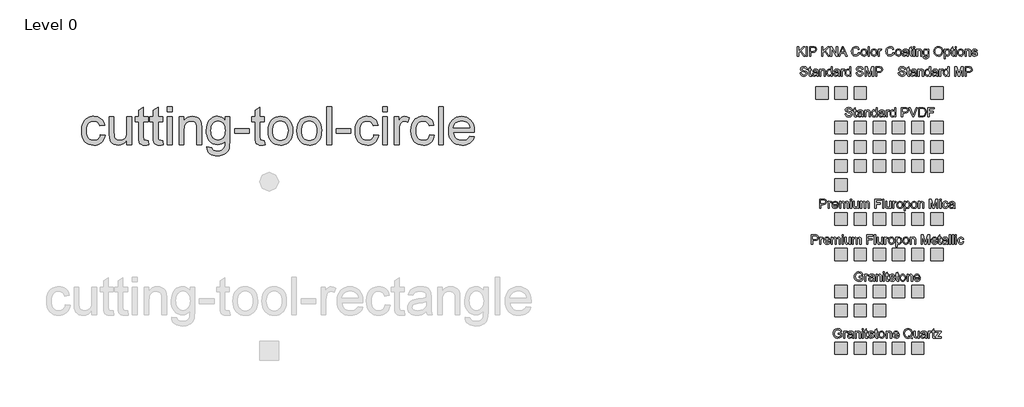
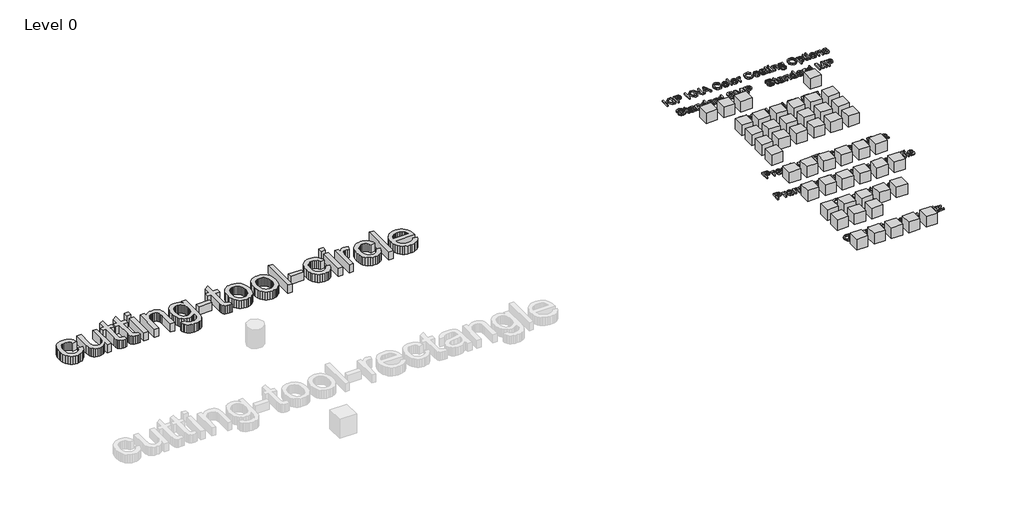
# One storey, part 5 of 5: 50 proxies.
"""IFC4 building model written with IfcOpenShell, lengths in millimetres."""

from ifc_helpers import new_model, si_unit, origin, origin_with_axes, place, context, project, spatial, polyline, outline, extrude, transform, mapped, element, save
from components import ks_color_sample_ks_color_sample_0243efec, r19_kna_color_range_kingspan_quadcore_4278cd54, r19_kna_color_range_kingspan_quadcore_c5814d20, r19_kna_color_range_kingspan_quadcore_91b79b7c

model = new_model("IFC4")

# Units and contexts
model_context = context("Model", 3, world=origin())
ifc_project = project(units=[si_unit("LENGTHUNIT", "METRE", prefix="MILLI")], contexts=[model_context])

# Site, building, storey
site = spatial("IfcSite", under=ifc_project)
building = spatial("IfcBuilding", under=site)
storey = spatial("IfcBuildingStorey", under=building, Name="Level 0", Elevation=0.0)

# Proxies
placement = place(None, origin())
element("IfcBuildingElementProxy", 1, Name="24\" Arial", ObjectType="24\" Arial", at=placement, inside=storey, context=model_context, shape_type="SweptSolid", body=[
    extrude(outline(polyline([(490.0375348, 12966.9224991), (566.1793083, 12957.4047774), (557.8977751, 12921.4763075), (544.9503275, 12889.6839569), (527.3369656, 12862.0277256), (505.0576893, 12838.5076135), (479.0512584, 12819.7370677), (450.2564324, 12806.3295349), (418.6732114, 12798.2850153), (384.3015954, 12795.6035087), (341.5973256, 12799.3446054), (303.3080145, 12810.5678954), (269.4336623, 12829.2733787), (239.9742688, 12855.4610553), (216.128844, 12888.6383088), (199.0963978, 12928.3125227), (188.87693, 12974.483697), (185.4704407, 13027.1518317), (191.2888917, 13094.9098308), (198.5619554, 13125.4009305), (208.7442445, 13153.6334301), (221.9054691, 13179.0403561), (238.1153388, 13201.0547348), (257.3738538, 13219.6765663), (279.681014, 13234.9058505), (304.0283499, 13246.7472347), (329.407392, 13255.2053663), (355.8181402, 13260.2802452), (383.2605946, 13261.9718715), (417.0420003, 13259.648209), (447.5981625, 13252.6772214), (474.9290811, 13241.0589088), (499.0347561, 13224.7932712), (519.5062229, 13204.2520945), (535.9345169, 13179.8071647), (548.3196382, 13151.458482), (556.6615866, 13119.2060462), (480.5198131, 13109.6883245), (466.7079631, 13142.9074039), (445.2001428, 13166.7202974), (417.1860674, 13181.0526479), (383.8554522, 13185.830098), (357.9837937, 13183.4785515), (334.6495746, 13176.4239121), (313.8527951, 13164.6661797), (295.593455, 13148.2053544), (280.7266621, 13126.6603555), (270.1075244, 13099.6501024), (263.7360418, 13067.174595), (261.6122142, 13029.2338333), (263.6895685, 12990.7214507), (269.9216314, 12957.86951), (280.3084029, 12930.6780111), (294.849883, 12909.1469542), (312.7467317, 12892.7837227), (333.1996092, 12881.0957002), (356.2085155, 12874.0828867), (381.7734506, 12871.7452822), (421.2013562, 12877.5823225), (438.2523918, 12884.8786228), (453.5281493, 12895.0934433), (466.6010746, 12908.3383196), (477.043614, 12924.7247877), (484.8557674, 12944.2528476), (490.0375348, 12966.9224991)])), origin_with_axes(), (0.0, 0.0, 1.0), 152.4),
    extrude(outline(polyline([(918.3350108, 12805.1212304), (918.3350108, 12882.0065759), (890.785668, 12844.205234), (858.7005359, 12817.2042755), (822.0796145, 12801.0037004), (780.9229039, 12795.6035087), (743.8372501, 12799.395726), (709.3169197, 12810.7723777), (680.35479, 12827.8745338), (659.9437384, 12848.8432644), (646.2062456, 12874.3106057), (637.2647922, 12904.9085938), (632.8033601, 12975.6966488), (632.8033601, 13252.4541498), (708.9451337, 13252.4541498), (708.9451337, 13011.5368196), (710.0976703, 12963.3533535), (713.5552801, 12933.907902), (724.6530923, 12908.0130069), (743.6699464, 12888.326938), (769.3417699, 12875.8906962), (800.4044905, 12871.7452822), (833.2517839, 12875.9836427), (863.9798971, 12888.698724), (889.3171133, 12908.7194003), (905.9917155, 12934.8745456), (915.249187, 12970.6961271), (918.3350108, 13019.7161116), (918.3350108, 13252.4541498), (994.4767843, 13252.4541498), (994.4767843, 12805.1212304), (918.3350108, 12805.1212304)])), origin_with_axes(), (0.0, 0.0, 1.0), 152.4),
    extrude(outline(polyline([(1260.9729917, 12868.6222798), (1270.4907133, 12802.8905144), (1240.3388685, 12797.4252601), (1213.5330976, 12795.6035087), (1176.9865335, 12798.7636898), (1149.7346194, 12808.2442328), (1130.4761044, 12822.8554228), (1117.9097375, 12841.4075444), (1110.9945178, 12873.2696049), (1108.6894446, 12927.8106116), (1108.6894446, 13176.3123763), (1051.5831145, 13176.3123763), (1051.5831145, 13252.4541498), (1108.6894446, 13252.4541498), (1108.6894446, 13361.1643772), (1184.8312181, 13405.9274121), (1184.8312181, 13252.4541498), (1260.9729917, 13252.4541498), (1260.9729917, 13176.3123763), (1184.8312181, 13176.3123763), (1184.8312181, 12930.0413276), (1188.846507, 12890.7807256), (1201.8590171, 12876.8759291), (1212.8452935, 12873.027944), (1227.8096801, 12871.7452822), (1260.9729917, 12868.6222798)])), origin_with_axes(), (0.0, 0.0, 1.0), 152.4),
    extrude(outline(polyline([(1498.9160339, 12868.6222798), (1508.4337556, 12802.8905144), (1478.2819107, 12797.4252601), (1451.4761398, 12795.6035087), (1414.9295757, 12798.7636898), (1387.6776616, 12808.2442328), (1368.4191467, 12822.8554228), (1355.8527797, 12841.4075444), (1348.9375601, 12873.2696049), (1346.6324869, 12927.8106116), (1346.6324869, 13176.3123763), (1289.5261567, 13176.3123763), (1289.5261567, 13252.4541498), (1346.6324869, 13252.4541498), (1346.6324869, 13361.1643772), (1422.7742604, 13405.9274121), (1422.7742604, 13252.4541498), (1498.9160339, 13252.4541498), (1498.9160339, 13176.3123763), (1422.7742604, 13176.3123763), (1422.7742604, 12930.0413276), (1426.7895492, 12890.7807256), (1439.8020593, 12876.8759291), (1450.7883357, 12873.027944), (1465.7527224, 12871.7452822), (1498.9160339, 12868.6222798)])), origin_with_axes(), (0.0, 0.0, 1.0), 152.4),
    extrude(outline(polyline([(1575.0578074, 13338.113645), (1575.0578074, 13414.2554185), (1651.1995809, 13414.2554185), (1651.1995809, 13338.113645), (1575.0578074, 13338.113645)])), origin_with_axes(), (0.0, 0.0, 1.0), 152.4),
    extrude(outline(polyline([(1575.0578074, 12805.1212304), (1575.0578074, 13252.4541498), (1651.1995809, 13252.4541498), (1651.1995809, 12805.1212304), (1575.0578074, 12805.1212304)])), origin_with_axes(), (0.0, 0.0, 1.0), 152.4),
    extrude(outline(polyline([(1765.4122412, 12805.1212304), (1765.4122412, 13252.4541498), (1841.5540147, 13252.4541498), (1841.5540147, 13189.9941012), (1868.0065889, 13221.4843757), (1899.7757029, 13243.9774289), (1936.8613567, 13257.4732609), (1979.2635504, 13261.9718715), (2016.7953475, 13258.346958), (2051.1669635, 13247.4722174), (2079.8316644, 13230.7046686), (2100.242716, 13209.4013306), (2114.0917446, 13183.6179713), (2123.0703766, 13153.4103585), (2127.0856654, 13079.7967298), (2127.0856654, 12805.1212304), (2050.9438919, 12805.1212304), (2050.9438919, 13069.5354361), (2048.7503545, 13108.9075739), (2042.1697422, 13136.9030599), (2030.0309292, 13156.9609148), (2011.1627895, 13172.5201591), (1986.97811, 13182.5026133), (1958.8896774, 13185.830098), (1935.7692353, 13183.9618733), (1914.2939463, 13178.3571993), (1894.4638103, 13169.016076), (1876.2788275, 13155.9385033), (1861.0867219, 13137.6373373), (1850.2352179, 13112.6254339), (1843.7243155, 13080.9027932), (1841.5540147, 13042.469415), (1841.5540147, 12805.1212304), (1765.4122412, 12805.1212304)])), origin_with_axes(), (0.0, 0.0, 1.0), 152.4),
    extrude(outline(polyline([(2212.7451606, 12767.0503437), (2288.8869341, 12757.532622), (2297.2892978, 12733.7383177), (2313.5735248, 12717.3797336), (2345.5842997, 12704.6646523), (2387.4845823, 12700.4262918), (2432.1732599, 12705.2223313), (2450.2234704, 12711.2173806), (2465.4109286, 12719.6104496), (2488.4616608, 12742.6611818), (2502.5895289, 12773.4450629), (2506.7163536, 12806.1994098), (2507.794533, 12862.2275606), (2482.4573169, 12837.2435411), (2454.1829913, 12819.3978129), (2422.9715563, 12808.690376), (2388.8230119, 12805.1212304), (2347.076091, 12809.275939), (2310.3203972, 12821.7400648), (2278.5559306, 12842.5136077), (2251.782691, 12871.5965678), (2230.5397682, 12906.4886843), (2215.3662519, 12944.6896961), (2206.2621422, 12986.1996034), (2203.2274389, 13031.0184061), (2208.6741039, 13092.4932218), (2225.0140987, 13149.0232837), (2237.1250278, 13174.5138615), (2251.6711552, 13196.9279102), (2268.6524809, 13216.2654297), (2288.0690049, 13232.52642), (2309.6093565, 13245.4088051), (2332.9621649, 13254.6105086), (2358.12743, 13260.1315308), (2385.1051518, 13261.9718715), (2420.7129563, 13257.8078683), (2453.0304547, 13245.3158586), (2482.0576469, 13224.4958424), (2507.794533, 13195.3478197), (2507.794533, 13252.4541498), (2583.9363065, 13252.4541498), (2583.9363065, 12866.2428494), (2578.7313025, 12777.0699764), (2572.2250474, 12743.9020176), (2563.1162903, 12718.3463772), (2551.1866069, 12697.7354906), (2536.217573, 12679.4017933), (2518.2091884, 12663.3452853), (2497.1614533, 12649.5659665), (2473.2881445, 12638.5053329), (2446.8030391, 12630.6048804), (2417.706137, 12625.8646088), (2385.9974383, 12624.2845183), (2348.6933601, 12626.510587), (2315.1536153, 12633.1887931), (2285.3782037, 12644.3191366), (2259.3671255, 12659.9016174), (2238.3565689, 12679.954825), (2223.5827226, 12704.4973486), (2215.0455865, 12733.5291881), (2212.7451606, 12767.0503437)]), holes=[polyline([(2279.3692124, 13036.2234102), (2281.4000935, 12998.57543), (2287.4927366, 12966.3834094), (2297.6471418, 12939.6473485), (2311.8633092, 12918.3672471), (2329.146711, 12902.1341407), (2348.5028198, 12890.5390647), (2369.9316356, 12883.5820191), (2393.4331583, 12881.2630039), (2416.7023148, 12883.5680772), (2438.0288894, 12890.4832968), (2457.4128822, 12902.0086629), (2474.8542931, 12918.1441755), (2489.265648, 12939.2151472), (2499.559473, 12965.5468909), (2505.735768, 12997.1394066), (2507.794533, 13033.9926942), (2505.6753528, 13069.3077172), (2499.3178121, 13100.0032991), (2488.721911, 13126.0794399), (2473.8876495, 13147.5361396), (2456.0698053, 13164.2897464), (2436.5231561, 13176.2566084), (2415.2477021, 13183.4367256), (2392.2434431, 13185.830098), (2369.6249121, 13183.4739042), (2348.76307, 13176.4053228), (2329.6579167, 13164.6243538), (2312.3094524, 13148.1309972), (2297.8980974, 13126.9996103), (2287.6042724, 13101.3045501), (2281.4279774, 13071.0458167), (2279.3692124, 13036.2234102)])]), origin_with_axes(), (0.0, 0.0, 1.0), 152.4),
    extrude(outline(polyline([(2660.07808, 12985.9579425), (2660.07808, 13062.099716), (2898.0211223, 13062.099716), (2898.0211223, 12985.9579425), (2660.07808, 12985.9579425)])), origin_with_axes(), (0.0, 0.0, 1.0), 152.4),
    extrude(outline(polyline([(3145.4818862, 12868.6222798), (3154.9996079, 12802.8905144), (3124.847763, 12797.4252601), (3098.0419922, 12795.6035087), (3061.495428, 12798.7636898), (3034.243514, 12808.2442328), (3014.984999, 12822.8554228), (3002.4186321, 12841.4075444), (2995.5034124, 12873.2696049), (2993.1983392, 12927.8106116), (2993.1983392, 13176.3123763), (2936.092009, 13176.3123763), (2936.092009, 13252.4541498), (2993.1983392, 13252.4541498), (2993.1983392, 13361.1643772), (3069.3401127, 13405.9274121), (3069.3401127, 13252.4541498), (3145.4818862, 13252.4541498), (3145.4818862, 13176.3123763), (3069.3401127, 13176.3123763), (3069.3401127, 12930.0413276), (3073.3554015, 12890.7807256), (3086.3679116, 12876.8759291), (3097.354188, 12873.027944), (3112.3185747, 12871.7452822), (3145.4818862, 12868.6222798)])), origin_with_axes(), (0.0, 0.0, 1.0), 152.4),
    extrude(outline(polyline([(3202.5882163, 13028.7876901), (3206.7057463, 13086.7212441), (3219.0583363, 13136.6428097), (3239.6459862, 13178.552387), (3268.4686962, 13212.4499758), (3297.4865937, 13234.1158052), (3329.5159579, 13249.5913976), (3364.5567888, 13258.876753), (3402.6090862, 13261.9718715), (3444.6162573, 13258.2028909), (3482.5988449, 13246.8959491), (3516.556849, 13228.051046), (3546.4902696, 13201.6681817), (3570.9212573, 13168.6396427), (3588.3719629, 13129.8577152), (3598.8423862, 13085.3223993), (3602.3325273, 13035.033695), (3600.7896154, 12994.2766543), (3596.1608796, 12958.1111709), (3588.4463201, 12926.5372445), (3577.6459367, 12899.5548753), (3563.8945019, 12876.2485402), (3547.3267881, 12855.7027162), (3527.9427953, 12837.9174032), (3505.7425236, 12822.8926014), (3481.5903753, 12810.9536233), (3456.350753, 12802.4257819), (3430.0236567, 12797.309077), (3402.6090862, 12795.6035087), (3359.9884682, 12799.3585474), (3321.652684, 12810.6236633), (3287.6017334, 12829.3988564), (3257.8356165, 12855.6841269), (3233.6648789, 12889.0333314), (3216.4000664, 12929.0003268), (3206.0411788, 12975.585113), (3202.5882163, 13028.7876901)]), holes=[polyline([(3278.7299899, 13028.9364045), (3280.9328219, 12992.0041124), (3287.5413181, 12960.0258688), (3298.5554785, 12933.0016736), (3313.975303, 12910.931527), (3332.7319069, 12893.7875449), (3353.7564054, 12881.5418434), (3377.0487985, 12874.1944225), (3402.6090862, 12871.7452822), (3428.0392489, 12874.2083645), (3451.2386955, 12881.5976113), (3472.2074261, 12893.9130227), (3490.9454407, 12911.1545986), (3506.3652652, 12933.4431695), (3517.3794255, 12960.8995659), (3523.9879217, 12993.5237877), (3526.1907538, 13031.3158349), (3523.9739797, 13067.0770012), (3517.3236576, 13098.2187263), (3506.2397874, 13124.7410103), (3490.7223691, 13146.6438532), (3471.9146446, 13163.7878353), (3450.959856, 13176.0335368), (3427.8580032, 13183.3809577), (3402.6090862, 13185.830098), (3377.0487985, 13183.3902523), (3353.7564054, 13176.0707154), (3332.7319069, 13163.8714872), (3313.975303, 13146.7925676), (3298.5554785, 13124.7874835), (3287.5413181, 13097.8097617), (3280.9328219, 13065.859402), (3278.7299899, 13028.9364045)])]), origin_with_axes(), (0.0, 0.0, 1.0), 152.4),
    extrude(outline(polyline([(3668.9565791, 13028.7876901), (3673.0741091, 13086.7212441), (3685.4266991, 13136.6428097), (3706.014349, 13178.552387), (3734.837059, 13212.4499758), (3763.8549565, 13234.1158052), (3795.8843207, 13249.5913976), (3830.9251516, 13258.876753), (3868.977449, 13261.9718715), (3910.9846201, 13258.2028909), (3948.9672077, 13246.8959491), (3982.9252118, 13228.051046), (4012.8586324, 13201.6681817), (4037.2896201, 13168.6396427), (4054.7403257, 13129.8577152), (4065.210749, 13085.3223993), (4068.7008901, 13035.033695), (4067.1579782, 12994.2766543), (4062.5292424, 12958.1111709), (4054.8146829, 12926.5372445), (4044.0142995, 12899.5548753), (4030.2628647, 12876.2485402), (4013.6951509, 12855.7027162), (3994.3111581, 12837.9174032), (3972.1108864, 12822.8926014), (3947.9587381, 12810.9536233), (3922.7191158, 12802.4257819), (3896.3920194, 12797.309077), (3868.977449, 12795.6035087), (3826.356831, 12799.3585474), (3788.0210468, 12810.6236633), (3753.9700962, 12829.3988564), (3724.2039793, 12855.6841269), (3700.0332417, 12889.0333314), (3682.7684292, 12929.0003268), (3672.4095416, 12975.585113), (3668.9565791, 13028.7876901)]), holes=[polyline([(3745.0983527, 13028.9364045), (3747.3011847, 12992.0041124), (3753.9096809, 12960.0258688), (3764.9238413, 12933.0016736), (3780.3436658, 12910.931527), (3799.1002697, 12893.7875449), (3820.1247682, 12881.5418434), (3843.4171613, 12874.1944225), (3868.977449, 12871.7452822), (3894.4076117, 12874.2083645), (3917.6070583, 12881.5976113), (3938.5757889, 12893.9130227), (3957.3138034, 12911.1545986), (3972.7336279, 12933.4431695), (3983.7477883, 12960.8995659), (3990.3562845, 12993.5237877), (3992.5591166, 13031.3158349), (3990.3423425, 13067.0770012), (3983.6920204, 13098.2187263), (3972.6081502, 13124.7410103), (3957.0907318, 13146.6438532), (3938.2830074, 13163.7878353), (3917.3282188, 13176.0335368), (3894.226366, 13183.3809577), (3868.977449, 13185.830098), (3843.4171613, 13183.3902523), (3820.1247682, 13176.0707154), (3799.1002697, 13163.8714872), (3780.3436658, 13146.7925676), (3764.9238413, 13124.7874835), (3753.9096809, 13097.8097617), (3747.3011847, 13065.859402), (3745.0983527, 13028.9364045)])]), origin_with_axes(), (0.0, 0.0, 1.0), 152.4),
    extrude(outline(polyline([(4154.3603853, 12805.1212304), (4154.3603853, 13414.2554185), (4230.5021588, 13414.2554185), (4230.5021588, 12805.1212304), (4154.3603853, 12805.1212304)])), origin_with_axes(), (0.0, 0.0, 1.0), 152.4),
    extrude(outline(polyline([(4306.6439323, 12985.9579425), (4306.6439323, 13062.099716), (4544.5869746, 13062.099716), (4544.5869746, 12985.9579425), (4306.6439323, 12985.9579425)])), origin_with_axes(), (0.0, 0.0, 1.0), 152.4),
    extrude(outline(polyline([(4915.7781205, 12966.9224991), (4991.919894, 12957.4047774), (4983.6383608, 12921.4763075), (4970.6909132, 12889.6839569), (4953.0775513, 12862.0277256), (4930.798275, 12838.5076135), (4904.7918441, 12819.7370677), (4875.9970181, 12806.3295349), (4844.4137971, 12798.2850153), (4810.0421811, 12795.6035087), (4767.3379113, 12799.3446054), (4729.0486002, 12810.5678954), (4695.174248, 12829.2733787), (4665.7148545, 12855.4610553), (4641.8694297, 12888.6383088), (4624.8369834, 12928.3125227), (4614.6175157, 12974.483697), (4611.2110264, 13027.1518317), (4617.0294774, 13094.9098308), (4624.3025411, 13125.4009305), (4634.4848302, 13153.6334301), (4647.6460547, 13179.0403561), (4663.8559245, 13201.0547348), (4683.1144395, 13219.6765663), (4705.4215997, 13234.9058505), (4729.7689356, 13246.7472347), (4755.1479777, 13255.2053663), (4781.5587259, 13260.2802452), (4809.0011803, 13261.9718715), (4842.782586, 13259.648209), (4873.3387482, 13252.6772214), (4900.6696668, 13241.0589088), (4924.7753418, 13224.7932712), (4945.2468086, 13204.2520945), (4961.6751026, 13179.8071647), (4974.0602238, 13151.458482), (4982.4021723, 13119.2060462), (4906.2603988, 13109.6883245), (4892.4485488, 13142.9074039), (4870.9407285, 13166.7202974), (4842.9266531, 13181.0526479), (4809.5960379, 13185.830098), (4783.7243794, 13183.4785515), (4760.3901603, 13176.4239121), (4739.5933807, 13164.6661797), (4721.3340406, 13148.2053544), (4706.4672478, 13126.6603555), (4695.8481101, 13099.6501024), (4689.4766275, 13067.174595), (4687.3527999, 13029.2338333), (4689.4301542, 12990.7214507), (4695.6622171, 12957.86951), (4706.0489886, 12930.6780111), (4720.5904686, 12909.1469542), (4738.4873174, 12892.7837227), (4758.9401949, 12881.0957002), (4781.9491012, 12874.0828867), (4807.5140363, 12871.7452822), (4846.9419419, 12877.5823225), (4863.9929775, 12884.8786228), (4879.2687349, 12895.0934433), (4892.3416603, 12908.3383196), (4902.7841997, 12924.7247877), (4910.5963531, 12944.2528476), (4915.7781205, 12966.9224991)])), origin_with_axes(), (0.0, 0.0, 1.0), 152.4),
    extrude(outline(polyline([(5058.5439458, 13338.113645), (5058.5439458, 13414.2554185), (5134.6857193, 13414.2554185), (5134.6857193, 13338.113645), (5058.5439458, 13338.113645)])), origin_with_axes(), (0.0, 0.0, 1.0), 152.4),
    extrude(outline(polyline([(5058.5439458, 12805.1212304), (5058.5439458, 13252.4541498), (5134.6857193, 13252.4541498), (5134.6857193, 12805.1212304), (5058.5439458, 12805.1212304)])), origin_with_axes(), (0.0, 0.0, 1.0), 152.4),
    extrude(outline(polyline([(5248.8983796, 12805.1212304), (5248.8983796, 13252.4541498), (5315.5224314, 13252.4541498), (5315.5224314, 13186.2762412), (5340.1346649, 13224.6445568), (5362.8136111, 13247.2491458), (5385.5669145, 13258.2911901), (5410.4022195, 13261.9718715), (5448.3243919, 13256.0976527), (5486.8414219, 13238.4749961), (5461.4112592, 13170.2150859), (5434.642667, 13181.926345), (5407.8740747, 13185.830098), (5385.1393606, 13182.0750594), (5364.8212555, 13170.8099435), (5348.4069034, 13152.8898581), (5337.3834484, 13129.1699111), (5328.125977, 13086.6375923), (5325.0401531, 13040.238699), (5325.0401531, 12805.1212304), (5248.8983796, 12805.1212304)])), origin_with_axes(), (0.0, 0.0, 1.0), 152.4),
    extrude(outline(polyline([(5819.961681, 12966.9224991), (5896.1034545, 12957.4047774), (5887.8219213, 12921.4763075), (5874.8744737, 12889.6839569), (5857.2611118, 12862.0277256), (5834.9818355, 12838.5076135), (5808.9754046, 12819.7370677), (5780.1805786, 12806.3295349), (5748.5973576, 12798.2850153), (5714.2257416, 12795.6035087), (5671.5214718, 12799.3446054), (5633.2321607, 12810.5678954), (5599.3578085, 12829.2733787), (5569.898415, 12855.4610553), (5546.0529902, 12888.6383088), (5529.020544, 12928.3125227), (5518.8010762, 12974.483697), (5515.3945869, 13027.1518317), (5521.2130379, 13094.9098308), (5528.4861016, 13125.4009305), (5538.6683907, 13153.6334301), (5551.8296153, 13179.0403561), (5568.039485, 13201.0547348), (5587.298, 13219.6765663), (5609.6051602, 13234.9058505), (5633.9524961, 13246.7472347), (5659.3315382, 13255.2053663), (5685.7422864, 13260.2802452), (5713.1847408, 13261.9718715), (5746.9661465, 13259.648209), (5777.5223087, 13252.6772214), (5804.8532273, 13241.0589088), (5828.9589023, 13224.7932712), (5849.4303691, 13204.2520945), (5865.8586631, 13179.8071647), (5878.2437844, 13151.458482), (5886.5857328, 13119.2060462), (5810.4439593, 13109.6883245), (5796.6321093, 13142.9074039), (5775.124289, 13166.7202974), (5747.1102136, 13181.0526479), (5713.7795984, 13185.830098), (5687.9079399, 13183.4785515), (5664.5737208, 13176.4239121), (5643.7769413, 13164.6661797), (5625.5176012, 13148.2053544), (5610.6508083, 13126.6603555), (5600.0316706, 13099.6501024), (5593.660188, 13067.174595), (5591.5363604, 13029.2338333), (5593.6137147, 12990.7214507), (5599.8457776, 12957.86951), (5610.2325491, 12930.6780111), (5624.7740292, 12909.1469542), (5642.6708779, 12892.7837227), (5663.1237554, 12881.0957002), (5686.1326617, 12874.0828867), (5711.6975968, 12871.7452822), (5751.1255024, 12877.5823225), (5768.176538, 12884.8786228), (5783.4522954, 12895.0934433), (5796.5252208, 12908.3383196), (5806.9677602, 12924.7247877), (5814.7799136, 12944.2528476), (5819.961681, 12966.9224991)])), origin_with_axes(), (0.0, 0.0, 1.0), 152.4),
    extrude(outline(polyline([(5962.7275063, 12805.1212304), (5962.7275063, 13414.2554185), (6038.8692799, 13414.2554185), (6038.8692799, 12805.1212304), (5962.7275063, 12805.1212304)])), origin_with_axes(), (0.0, 0.0, 1.0), 152.4),
    extrude(outline(polyline([(6466.2744695, 12938.3693341), (6540.929099, 12928.8516124), (6529.4827374, 12898.950723), (6514.0303816, 12872.60039), (6494.5720317, 12849.8006134), (6471.1076875, 12830.5513931), (6443.8790101, 12815.2616937), (6413.1276603, 12804.3404798), (6378.8536381, 12797.7877515), (6341.0569435, 12795.6035087), (6293.8122371, 12799.3724893), (6251.7167669, 12810.6794312), (6214.7705328, 12829.5243342), (6182.9735348, 12855.9071985), (6157.4039524, 12889.0937466), (6139.139965, 12928.3497013), (6128.1815725, 12973.6750624), (6124.5287751, 13025.0698301), (6128.2187511, 13078.2073446), (6139.2886794, 13125.0430864), (6157.7385598, 13165.5770555), (6183.5683924, 13199.8092517), (6215.2817385, 13227.0053979), (6251.3821595, 13246.4312166), (6291.8696552, 13258.0867078), (6336.7442259, 13261.9718715), (6380.1734784, 13258.0960024), (6419.4480223, 13246.4683952), (6454.5678577, 13227.0890497), (6485.5329845, 13199.9579661), (6510.8097854, 13165.8001271), (6528.8646432, 13125.3405152), (6539.6975578, 13078.5791306), (6543.3085294, 13025.5159733), (6542.8623862, 13004.9933859), (6200.6705486, 13004.9933859), (6205.08086, 12974.6091748), (6213.8503624, 12947.9985916), (6226.9790556, 12925.1616363), (6244.4669398, 12906.098309), (6265.3473712, 12891.0688598), (6288.6537063, 12880.3335389), (6314.3859451, 12873.8923464), (6342.5440875, 12871.7452822), (6383.0687619, 12875.7233925), (6417.198717, 12887.6577232), (6444.9339529, 12908.2918464), (6466.2744695, 12938.3693341)]), holes=[polyline([(6200.6705486, 13081.1351594), (6467.1667559, 13081.1351594), (6456.8682836, 13121.362405), (6448.0104821, 13137.1818994), (6436.6803036, 13150.1386417), (6415.9160553, 13165.7536538), (6392.2890548, 13176.9072339), (6365.799302, 13183.599382), (6336.4467971, 13185.830098), (6309.6735575, 13184.0501725), (6285.1217393, 13178.710396), (6262.7913424, 13169.8107686), (6242.682367, 13157.3512901), (6225.8079297, 13141.908229), (6213.1811476, 13124.0578535), (6204.8020205, 13103.8001637), (6200.6705486, 13081.1351594)])]), origin_with_axes(), (0.0, 0.0, 1.0), 152.4),
])
ks_color_sample_ks_color_sample_shape = ks_color_sample_ks_color_sample_0243efec(model_context)
element("IfcBuildingElementProxy", 2, Name="KS_Color Sample : KS_Color Sample", ObjectType="KS_Color Sample : KS_Color Sample", at=placement, inside=storey, context=model_context, shape_type="MappedRepresentation", body=[
    mapped(ks_color_sample_ks_color_sample_shape, transform((12166.5853815, 13639.2290821, 0.0), x_axis=(1.0, 0.0, 0.0), y_axis=(0.0, 1.0, 0.0), z_axis=(0.0, 0.0, 1.0))),
])
element("IfcBuildingElementProxy", 3, Name="KS_Color Sample : KS_Color Sample", ObjectType="KS_Color Sample : KS_Color Sample", at=placement, inside=storey, context=model_context, shape_type="MappedRepresentation", body=[
    mapped(ks_color_sample_ks_color_sample_shape, transform((12476.5853815, 13639.2290821, 0.0), x_axis=(1.0, 0.0, 0.0), y_axis=(0.0, 1.0, 0.0), z_axis=(0.0, 0.0, 1.0))),
])
element("IfcBuildingElementProxy", 4, Name="KS_Color Sample : KS_Color Sample", ObjectType="KS_Color Sample : KS_Color Sample", at=placement, inside=storey, context=model_context, shape_type="MappedRepresentation", body=[
    mapped(ks_color_sample_ks_color_sample_shape, transform((12786.5853815, 13639.2290821, 0.0), x_axis=(1.0, 0.0, 0.0), y_axis=(0.0, 1.0, 0.0), z_axis=(0.0, 0.0, 1.0))),
])
element("IfcBuildingElementProxy", 5, Name="KS_Color Sample : KS_Color Sample", ObjectType="KS_Color Sample : KS_Color Sample", at=placement, inside=storey, context=model_context, shape_type="MappedRepresentation", body=[
    mapped(ks_color_sample_ks_color_sample_shape, transform((14026.5853815, 13639.2290821, 0.0), x_axis=(1.0, 0.0, 0.0), y_axis=(0.0, 1.0, 0.0), z_axis=(0.0, 0.0, 1.0))),
])
element("IfcBuildingElementProxy", 6, Name="KS_Color Sample : KS_Color Sample", ObjectType="KS_Color Sample : KS_Color Sample", at=placement, inside=storey, context=model_context, shape_type="MappedRepresentation", body=[
    mapped(ks_color_sample_ks_color_sample_shape, transform((12786.5853815, 13079.2290821, 0.0), x_axis=(1.0, 0.0, 0.0), y_axis=(0.0, 1.0, 0.0), z_axis=(0.0, 0.0, 1.0))),
])
element("IfcBuildingElementProxy", 7, Name="KS_Color Sample : KS_Color Sample", ObjectType="KS_Color Sample : KS_Color Sample", at=placement, inside=storey, context=model_context, shape_type="MappedRepresentation", body=[
    mapped(ks_color_sample_ks_color_sample_shape, transform((13096.5853815, 13079.2290821, 0.0), x_axis=(1.0, 0.0, 0.0), y_axis=(0.0, 1.0, 0.0), z_axis=(0.0, 0.0, 1.0))),
])
element("IfcBuildingElementProxy", 8, Name="KS_Color Sample : KS_Color Sample", ObjectType="KS_Color Sample : KS_Color Sample", at=placement, inside=storey, context=model_context, shape_type="MappedRepresentation", body=[
    mapped(ks_color_sample_ks_color_sample_shape, transform((13406.5853815, 13079.2290821, 0.0), x_axis=(1.0, 0.0, 0.0), y_axis=(0.0, 1.0, 0.0), z_axis=(0.0, 0.0, 1.0))),
])
element("IfcBuildingElementProxy", 9, Name="KS_Color Sample : KS_Color Sample", ObjectType="KS_Color Sample : KS_Color Sample", at=placement, inside=storey, context=model_context, shape_type="MappedRepresentation", body=[
    mapped(ks_color_sample_ks_color_sample_shape, transform((13716.5853815, 13079.2290821, 0.0), x_axis=(1.0, 0.0, 0.0), y_axis=(0.0, 1.0, 0.0), z_axis=(0.0, 0.0, 1.0))),
])
element("IfcBuildingElementProxy", 10, Name="KS_Color Sample : KS_Color Sample", ObjectType="KS_Color Sample : KS_Color Sample", at=placement, inside=storey, context=model_context, shape_type="MappedRepresentation", body=[
    mapped(ks_color_sample_ks_color_sample_shape, transform((12476.5853815, 11599.2290821, 0.0), x_axis=(1.0, 0.0, 0.0), y_axis=(0.0, 1.0, 0.0), z_axis=(0.0, 0.0, 1.0))),
])
element("IfcBuildingElementProxy", 11, Name="KS_Color Sample : KS_Color Sample", ObjectType="KS_Color Sample : KS_Color Sample", at=placement, inside=storey, context=model_context, shape_type="MappedRepresentation", body=[
    mapped(ks_color_sample_ks_color_sample_shape, transform((12786.5853815, 11599.2290821, 0.0), x_axis=(1.0, 0.0, 0.0), y_axis=(0.0, 1.0, 0.0), z_axis=(0.0, 0.0, 1.0))),
])
element("IfcBuildingElementProxy", 12, Name="KS_Color Sample : KS_Color Sample", ObjectType="KS_Color Sample : KS_Color Sample", at=placement, inside=storey, context=model_context, shape_type="MappedRepresentation", body=[
    mapped(ks_color_sample_ks_color_sample_shape, transform((13096.5853815, 11599.2290821, 0.0), x_axis=(1.0, 0.0, 0.0), y_axis=(0.0, 1.0, 0.0), z_axis=(0.0, 0.0, 1.0))),
])
element("IfcBuildingElementProxy", 13, Name="KS_Color Sample : KS_Color Sample", ObjectType="KS_Color Sample : KS_Color Sample", at=placement, inside=storey, context=model_context, shape_type="MappedRepresentation", body=[
    mapped(ks_color_sample_ks_color_sample_shape, transform((13406.5853815, 11599.2290821, 0.0), x_axis=(1.0, 0.0, 0.0), y_axis=(0.0, 1.0, 0.0), z_axis=(0.0, 0.0, 1.0))),
])
element("IfcBuildingElementProxy", 14, Name="KS_Color Sample : KS_Color Sample", ObjectType="KS_Color Sample : KS_Color Sample", at=placement, inside=storey, context=model_context, shape_type="MappedRepresentation", body=[
    mapped(ks_color_sample_ks_color_sample_shape, transform((14026.5853815, 13079.2290821, 0.0), x_axis=(1.0, 0.0, 0.0), y_axis=(0.0, 1.0, 0.0), z_axis=(0.0, 0.0, 1.0))),
])
element("IfcBuildingElementProxy", 15, Name="KS_Color Sample : KS_Color Sample", ObjectType="KS_Color Sample : KS_Color Sample", at=placement, inside=storey, context=model_context, shape_type="MappedRepresentation", body=[
    mapped(ks_color_sample_ks_color_sample_shape, transform((13716.5853815, 12769.2290821, 0.0), x_axis=(1.0, 0.0, 0.0), y_axis=(0.0, 1.0, 0.0), z_axis=(0.0, 0.0, 1.0))),
])
element("IfcBuildingElementProxy", 16, Name="KS_Color Sample : KS_Color Sample", ObjectType="KS_Color Sample : KS_Color Sample", at=placement, inside=storey, context=model_context, shape_type="MappedRepresentation", body=[
    mapped(ks_color_sample_ks_color_sample_shape, transform((14026.5853815, 12769.2290821, 0.0), x_axis=(1.0, 0.0, 0.0), y_axis=(0.0, 1.0, 0.0), z_axis=(0.0, 0.0, 1.0))),
])
element("IfcBuildingElementProxy", 17, Name="KS_Color Sample : KS_Color Sample", ObjectType="KS_Color Sample : KS_Color Sample", at=placement, inside=storey, context=model_context, shape_type="MappedRepresentation", body=[
    mapped(ks_color_sample_ks_color_sample_shape, transform((12476.5853815, 12769.2290821, 0.0), x_axis=(1.0, 0.0, 0.0), y_axis=(0.0, 1.0, 0.0), z_axis=(0.0, 0.0, 1.0))),
])
element("IfcBuildingElementProxy", 18, Name="KS_Color Sample : KS_Color Sample", ObjectType="KS_Color Sample : KS_Color Sample", at=placement, inside=storey, context=model_context, shape_type="MappedRepresentation", body=[
    mapped(ks_color_sample_ks_color_sample_shape, transform((13096.5853815, 12769.2290821, 0.0), x_axis=(1.0, 0.0, 0.0), y_axis=(0.0, 1.0, 0.0), z_axis=(0.0, 0.0, 1.0))),
])
element("IfcBuildingElementProxy", 19, Name="KS_Color Sample : KS_Color Sample", ObjectType="KS_Color Sample : KS_Color Sample", at=placement, inside=storey, context=model_context, shape_type="MappedRepresentation", body=[
    mapped(ks_color_sample_ks_color_sample_shape, transform((13406.5853815, 12769.2290821, 0.0), x_axis=(1.0, 0.0, 0.0), y_axis=(0.0, 1.0, 0.0), z_axis=(0.0, 0.0, 1.0))),
])
element("IfcBuildingElementProxy", 20, Name="KS_Color Sample : KS_Color Sample", ObjectType="KS_Color Sample : KS_Color Sample", at=placement, inside=storey, context=model_context, shape_type="MappedRepresentation", body=[
    mapped(ks_color_sample_ks_color_sample_shape, transform((12476.5853815, 12459.2290821, 0.0), x_axis=(1.0, 0.0, 0.0), y_axis=(0.0, 1.0, 0.0), z_axis=(0.0, 0.0, 1.0))),
])
element("IfcBuildingElementProxy", 21, Name="KS_Color Sample : KS_Color Sample", ObjectType="KS_Color Sample : KS_Color Sample", at=placement, inside=storey, context=model_context, shape_type="MappedRepresentation", body=[
    mapped(ks_color_sample_ks_color_sample_shape, transform((12786.5853815, 12459.2290821, 0.0), x_axis=(1.0, 0.0, 0.0), y_axis=(0.0, 1.0, 0.0), z_axis=(0.0, 0.0, 1.0))),
])
element("IfcBuildingElementProxy", 22, Name="KS_Color Sample : KS_Color Sample", ObjectType="KS_Color Sample : KS_Color Sample", at=placement, inside=storey, context=model_context, shape_type="MappedRepresentation", body=[
    mapped(ks_color_sample_ks_color_sample_shape, transform((13096.5853815, 12459.2290821, 0.0), x_axis=(1.0, 0.0, 0.0), y_axis=(0.0, 1.0, 0.0), z_axis=(0.0, 0.0, 1.0))),
])
element("IfcBuildingElementProxy", 23, Name="KS_Color Sample : KS_Color Sample", ObjectType="KS_Color Sample : KS_Color Sample", at=placement, inside=storey, context=model_context, shape_type="MappedRepresentation", body=[
    mapped(ks_color_sample_ks_color_sample_shape, transform((13406.5853815, 12459.2290821, 0.0), x_axis=(1.0, 0.0, 0.0), y_axis=(0.0, 1.0, 0.0), z_axis=(0.0, 0.0, 1.0))),
])
element("IfcBuildingElementProxy", 24, Name="KS_Color Sample : KS_Color Sample", ObjectType="KS_Color Sample : KS_Color Sample", at=placement, inside=storey, context=model_context, shape_type="MappedRepresentation", body=[
    mapped(ks_color_sample_ks_color_sample_shape, transform((13716.5853815, 12459.2290821, 0.0), x_axis=(1.0, 0.0, 0.0), y_axis=(0.0, 1.0, 0.0), z_axis=(0.0, 0.0, 1.0))),
])
element("IfcBuildingElementProxy", 25, Name="KS_Color Sample : KS_Color Sample", ObjectType="KS_Color Sample : KS_Color Sample", at=placement, inside=storey, context=model_context, shape_type="MappedRepresentation", body=[
    mapped(ks_color_sample_ks_color_sample_shape, transform((14026.5853815, 12459.2290821, 0.0), x_axis=(1.0, 0.0, 0.0), y_axis=(0.0, 1.0, 0.0), z_axis=(0.0, 0.0, 1.0))),
])
element("IfcBuildingElementProxy", 26, Name="KS_Color Sample : KS_Color Sample", ObjectType="KS_Color Sample : KS_Color Sample", at=placement, inside=storey, context=model_context, shape_type="MappedRepresentation", body=[
    mapped(ks_color_sample_ks_color_sample_shape, transform((12476.5853815, 12149.2290821, 0.0), x_axis=(1.0, 0.0, 0.0), y_axis=(0.0, 1.0, 0.0), z_axis=(0.0, 0.0, 1.0))),
])
element("IfcBuildingElementProxy", 27, Name="KS_Color Sample : KS_Color Sample", ObjectType="KS_Color Sample : KS_Color Sample", at=placement, inside=storey, context=model_context, shape_type="MappedRepresentation", body=[
    mapped(ks_color_sample_ks_color_sample_shape, transform((13716.5853815, 11599.2290821, 0.0), x_axis=(1.0, 0.0, 0.0), y_axis=(0.0, 1.0, 0.0), z_axis=(0.0, 0.0, 1.0))),
])
element("IfcBuildingElementProxy", 28, Name="KS_Color Sample : KS_Color Sample", ObjectType="KS_Color Sample : KS_Color Sample", at=placement, inside=storey, context=model_context, shape_type="MappedRepresentation", body=[
    mapped(ks_color_sample_ks_color_sample_shape, transform((14026.5853815, 11599.2290821, 0.0), x_axis=(1.0, 0.0, 0.0), y_axis=(0.0, 1.0, 0.0), z_axis=(0.0, 0.0, 1.0))),
])
element("IfcBuildingElementProxy", 29, Name="KS_Color Sample : KS_Color Sample", ObjectType="KS_Color Sample : KS_Color Sample", at=placement, inside=storey, context=model_context, shape_type="MappedRepresentation", body=[
    mapped(ks_color_sample_ks_color_sample_shape, transform((12476.5853815, 11029.2290821, 0.0), x_axis=(1.0, 0.0, 0.0), y_axis=(0.0, 1.0, 0.0), z_axis=(0.0, 0.0, 1.0))),
])
element("IfcBuildingElementProxy", 30, Name="KS_Color Sample : KS_Color Sample", ObjectType="KS_Color Sample : KS_Color Sample", at=placement, inside=storey, context=model_context, shape_type="MappedRepresentation", body=[
    mapped(ks_color_sample_ks_color_sample_shape, transform((12786.5853815, 11029.2290821, 0.0), x_axis=(1.0, 0.0, 0.0), y_axis=(0.0, 1.0, 0.0), z_axis=(0.0, 0.0, 1.0))),
])
element("IfcBuildingElementProxy", 31, Name="KS_Color Sample : KS_Color Sample", ObjectType="KS_Color Sample : KS_Color Sample", at=placement, inside=storey, context=model_context, shape_type="MappedRepresentation", body=[
    mapped(ks_color_sample_ks_color_sample_shape, transform((13096.5853815, 11029.2290821, 0.0), x_axis=(1.0, 0.0, 0.0), y_axis=(0.0, 1.0, 0.0), z_axis=(0.0, 0.0, 1.0))),
])
element("IfcBuildingElementProxy", 32, Name="KS_Color Sample : KS_Color Sample", ObjectType="KS_Color Sample : KS_Color Sample", at=placement, inside=storey, context=model_context, shape_type="MappedRepresentation", body=[
    mapped(ks_color_sample_ks_color_sample_shape, transform((13406.5853815, 11029.2290821, 0.0), x_axis=(1.0, 0.0, 0.0), y_axis=(0.0, 1.0, 0.0), z_axis=(0.0, 0.0, 1.0))),
])
element("IfcBuildingElementProxy", 33, Name="KS_Color Sample : KS_Color Sample", ObjectType="KS_Color Sample : KS_Color Sample", at=placement, inside=storey, context=model_context, shape_type="MappedRepresentation", body=[
    mapped(ks_color_sample_ks_color_sample_shape, transform((13716.5853815, 11029.2290821, 0.0), x_axis=(1.0, 0.0, 0.0), y_axis=(0.0, 1.0, 0.0), z_axis=(0.0, 0.0, 1.0))),
])
element("IfcBuildingElementProxy", 34, Name="KS_Color Sample : KS_Color Sample", ObjectType="KS_Color Sample : KS_Color Sample", at=placement, inside=storey, context=model_context, shape_type="MappedRepresentation", body=[
    mapped(ks_color_sample_ks_color_sample_shape, transform((14026.5853815, 11029.2290821, 0.0), x_axis=(1.0, 0.0, 0.0), y_axis=(0.0, 1.0, 0.0), z_axis=(0.0, 0.0, 1.0))),
])
element("IfcBuildingElementProxy", 35, Name="KS_Color Sample : KS_Color Sample", ObjectType="KS_Color Sample : KS_Color Sample", at=placement, inside=storey, context=model_context, shape_type="MappedRepresentation", body=[
    mapped(ks_color_sample_ks_color_sample_shape, transform((12476.5853815, 10429.2290821, 0.0), x_axis=(1.0, 0.0, 0.0), y_axis=(0.0, 1.0, 0.0), z_axis=(0.0, 0.0, 1.0))),
])
element("IfcBuildingElementProxy", 36, Name="KS_Color Sample : KS_Color Sample", ObjectType="KS_Color Sample : KS_Color Sample", at=placement, inside=storey, context=model_context, shape_type="MappedRepresentation", body=[
    mapped(ks_color_sample_ks_color_sample_shape, transform((12786.5853815, 10429.2290821, 0.0), x_axis=(1.0, 0.0, 0.0), y_axis=(0.0, 1.0, 0.0), z_axis=(0.0, 0.0, 1.0))),
])
element("IfcBuildingElementProxy", 37, Name="KS_Color Sample : KS_Color Sample", ObjectType="KS_Color Sample : KS_Color Sample", at=placement, inside=storey, context=model_context, shape_type="MappedRepresentation", body=[
    mapped(ks_color_sample_ks_color_sample_shape, transform((13096.5853815, 10429.2290821, 0.0), x_axis=(1.0, 0.0, 0.0), y_axis=(0.0, 1.0, 0.0), z_axis=(0.0, 0.0, 1.0))),
])
element("IfcBuildingElementProxy", 38, Name="KS_Color Sample : KS_Color Sample", ObjectType="KS_Color Sample : KS_Color Sample", at=placement, inside=storey, context=model_context, shape_type="MappedRepresentation", body=[
    mapped(ks_color_sample_ks_color_sample_shape, transform((13406.5853815, 10429.2290821, 0.0), x_axis=(1.0, 0.0, 0.0), y_axis=(0.0, 1.0, 0.0), z_axis=(0.0, 0.0, 1.0))),
])
element("IfcBuildingElementProxy", 39, Name="KS_Color Sample : KS_Color Sample", ObjectType="KS_Color Sample : KS_Color Sample", at=placement, inside=storey, context=model_context, shape_type="MappedRepresentation", body=[
    mapped(ks_color_sample_ks_color_sample_shape, transform((13716.5853815, 10429.2290821, 0.0), x_axis=(1.0, 0.0, 0.0), y_axis=(0.0, 1.0, 0.0), z_axis=(0.0, 0.0, 1.0))),
])
element("IfcBuildingElementProxy", 40, Name="KS_Color Sample : KS_Color Sample", ObjectType="KS_Color Sample : KS_Color Sample", at=placement, inside=storey, context=model_context, shape_type="MappedRepresentation", body=[
    mapped(ks_color_sample_ks_color_sample_shape, transform((12476.5853815, 10119.2290821, 0.0), x_axis=(1.0, 0.0, 0.0), y_axis=(0.0, 1.0, 0.0), z_axis=(0.0, 0.0, 1.0))),
])
element("IfcBuildingElementProxy", 41, Name="KS_Color Sample : KS_Color Sample", ObjectType="KS_Color Sample : KS_Color Sample", at=placement, inside=storey, context=model_context, shape_type="MappedRepresentation", body=[
    mapped(ks_color_sample_ks_color_sample_shape, transform((12786.5853815, 10119.2290821, 0.0), x_axis=(1.0, 0.0, 0.0), y_axis=(0.0, 1.0, 0.0), z_axis=(0.0, 0.0, 1.0))),
])
element("IfcBuildingElementProxy", 42, Name="KS_Color Sample : KS_Color Sample", ObjectType="KS_Color Sample : KS_Color Sample", at=placement, inside=storey, context=model_context, shape_type="MappedRepresentation", body=[
    mapped(ks_color_sample_ks_color_sample_shape, transform((13096.5853815, 10119.2290821, 0.0), x_axis=(1.0, 0.0, 0.0), y_axis=(0.0, 1.0, 0.0), z_axis=(0.0, 0.0, 1.0))),
])
element("IfcBuildingElementProxy", 43, Name="KS_Color Sample : KS_Color Sample", ObjectType="KS_Color Sample : KS_Color Sample", at=placement, inside=storey, context=model_context, shape_type="MappedRepresentation", body=[
    mapped(ks_color_sample_ks_color_sample_shape, transform((12476.5853815, 9509.2290821, 0.0), x_axis=(1.0, 0.0, 0.0), y_axis=(0.0, 1.0, 0.0), z_axis=(0.0, 0.0, 1.0))),
])
element("IfcBuildingElementProxy", 44, Name="KS_Color Sample : KS_Color Sample", ObjectType="KS_Color Sample : KS_Color Sample", at=placement, inside=storey, context=model_context, shape_type="MappedRepresentation", body=[
    mapped(ks_color_sample_ks_color_sample_shape, transform((12786.5853815, 9509.2290821, 0.0), x_axis=(1.0, 0.0, 0.0), y_axis=(0.0, 1.0, 0.0), z_axis=(0.0, 0.0, 1.0))),
])
element("IfcBuildingElementProxy", 45, Name="KS_Color Sample : KS_Color Sample", ObjectType="KS_Color Sample : KS_Color Sample", at=placement, inside=storey, context=model_context, shape_type="MappedRepresentation", body=[
    mapped(ks_color_sample_ks_color_sample_shape, transform((13096.5853815, 9509.2290821, 0.0), x_axis=(1.0, 0.0, 0.0), y_axis=(0.0, 1.0, 0.0), z_axis=(0.0, 0.0, 1.0))),
])
element("IfcBuildingElementProxy", 46, Name="KS_Color Sample : KS_Color Sample", ObjectType="KS_Color Sample : KS_Color Sample", at=placement, inside=storey, context=model_context, shape_type="MappedRepresentation", body=[
    mapped(ks_color_sample_ks_color_sample_shape, transform((13406.5853815, 9509.2290821, 0.0), x_axis=(1.0, 0.0, 0.0), y_axis=(0.0, 1.0, 0.0), z_axis=(0.0, 0.0, 1.0))),
])
element("IfcBuildingElementProxy", 47, Name="KS_Color Sample : KS_Color Sample", ObjectType="KS_Color Sample : KS_Color Sample", at=placement, inside=storey, context=model_context, shape_type="MappedRepresentation", body=[
    mapped(ks_color_sample_ks_color_sample_shape, transform((13716.5853815, 9509.2290821, 0.0), x_axis=(1.0, 0.0, 0.0), y_axis=(0.0, 1.0, 0.0), z_axis=(0.0, 0.0, 1.0))),
])
element("IfcBuildingElementProxy", 48, Name="KS_Color Sample : KS_Color Sample", ObjectType="KS_Color Sample : KS_Color Sample", at=placement, inside=storey, context=model_context, shape_type="MappedRepresentation", body=[
    mapped(ks_color_sample_ks_color_sample_shape, transform((12476.5853815, 13079.2290821, 0.0), x_axis=(1.0, 0.0, 0.0), y_axis=(0.0, 1.0, 0.0), z_axis=(0.0, 0.0, 1.0))),
])
element("IfcBuildingElementProxy", 49, Name="KS_Color Sample : KS_Color Sample", ObjectType="KS_Color Sample : KS_Color Sample", at=placement, inside=storey, context=model_context, shape_type="MappedRepresentation", body=[
    mapped(ks_color_sample_ks_color_sample_shape, transform((12786.5853815, 12769.2290821, 0.0), x_axis=(1.0, 0.0, 0.0), y_axis=(0.0, 1.0, 0.0), z_axis=(0.0, 0.0, 1.0))),
])
r19_kna_color_range_kingspan_quadcore_shape = r19_kna_color_range_kingspan_quadcore_4278cd54(model_context)
r19_kna_color_range_kingspan_quadcore_2_shape = r19_kna_color_range_kingspan_quadcore_c5814d20(model_context)
r19_kna_color_range_kingspan_quadcore_3_shape = r19_kna_color_range_kingspan_quadcore_91b79b7c(model_context)
element("IfcBuildingElementProxy", 50, Name="R19_KNA_Color Range : Kingspan Quadcore", ObjectType="R19_KNA_Color Range : Kingspan Quadcore", at=placement, inside=storey, context=model_context, shape_type="MappedRepresentation", body=[
    mapped(r19_kna_color_range_kingspan_quadcore_shape, transform((13221.5853815, 13539.2290821, 0.0), x_axis=(1.0, 0.0, 0.0), y_axis=(0.0, 1.0, 0.0), z_axis=(0.0, 0.0, 1.0))),
    mapped(r19_kna_color_range_kingspan_quadcore_2_shape, transform((13221.5853815, 13539.2290821, 0.0), x_axis=(1.0, 0.0, 0.0), y_axis=(0.0, 1.0, 0.0), z_axis=(0.0, 0.0, 1.0))),
    mapped(r19_kna_color_range_kingspan_quadcore_3_shape, transform((13221.5853815, 13539.2290821, 0.0), x_axis=(1.0, 0.0, 0.0), y_axis=(0.0, 1.0, 0.0), z_axis=(0.0, 0.0, 1.0))),
])

save(model, "model.ifc")
